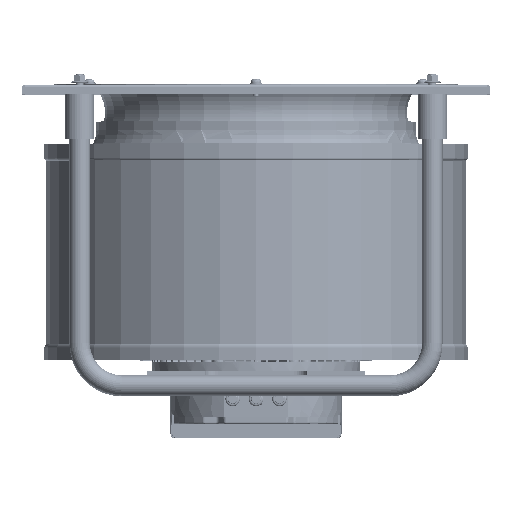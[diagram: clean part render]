
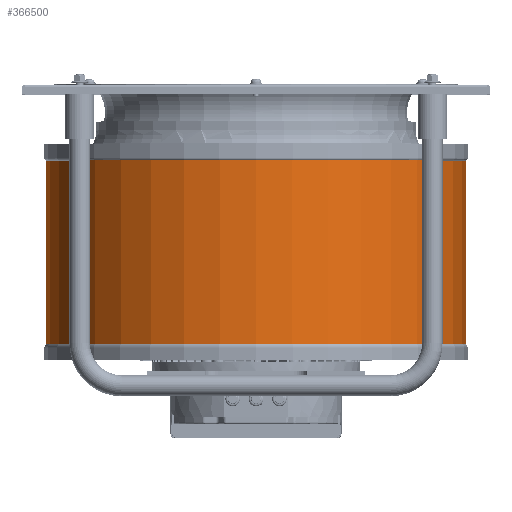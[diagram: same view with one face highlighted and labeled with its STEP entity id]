
A CAD part, top view. The second image highlights one B-rep face of the part: STEP entity #366500.
In plain terms, the highlighted cylindrical face has radius 327.053 mm (diameter 654.107 mm), a partial arc.
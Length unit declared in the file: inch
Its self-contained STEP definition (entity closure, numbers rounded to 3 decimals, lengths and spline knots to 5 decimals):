
#363000=CARTESIAN_POINT('',(0.,0.,10.48125));
#363001=DIRECTION('',(0.,0.,-1.));
#363002=DIRECTION('',(-1.,0.,0.));
#363003=AXIS2_PLACEMENT_3D('',#363000,#363001,#363002);
#363020=DIRECTION('',(0.,0.,-1.));
#363021=VECTOR('',#363020,11.252);
#363022=CARTESIAN_POINT('',(-12.87612,0.,10.48125));
#363023=LINE('',#363022,#363021);
#363024=DIRECTION('',(0.,0.,-1.));
#363025=VECTOR('',#363024,11.252);
#363026=CARTESIAN_POINT('',(12.87612,0.,10.48125));
#363027=LINE('',#363026,#363025);
#363058=CARTESIAN_POINT('',(0.,0.,-0.77075));
#363059=DIRECTION('',(0.,0.,1.));
#363060=DIRECTION('',(1.,0.,0.));
#363061=AXIS2_PLACEMENT_3D('',#363058,#363059,#363060);
#365242=CARTESIAN_POINT('',(-12.87612,0.,-0.77075));
#365243=CARTESIAN_POINT('',(12.87612,0.,-0.77075));
#365244=VERTEX_POINT('',#365242);
#365245=VERTEX_POINT('',#365243);
#365246=CARTESIAN_POINT('',(12.87612,0.,10.48125));
#365247=CARTESIAN_POINT('',(-12.87612,0.,10.48125));
#365248=VERTEX_POINT('',#365246);
#365249=VERTEX_POINT('',#365247);
#366486=CARTESIAN_POINT('',(0.,0.,-1.45342));
#366487=DIRECTION('',(0.,0.,1.));
#366488=DIRECTION('',(-1.,0.,0.));
#366489=AXIS2_PLACEMENT_3D('',#366486,#366487,#366488);
#366490=CYLINDRICAL_SURFACE('',#366489,12.87612);
#366491=ORIENTED_EDGE('',*,*,#366476,.F.);
#366493=ORIENTED_EDGE('',*,*,#366492,.T.);
#366495=ORIENTED_EDGE('',*,*,#366494,.F.);
#366497=ORIENTED_EDGE('',*,*,#366496,.F.);
#366498=EDGE_LOOP('',(#366491,#366493,#366495,#366497));
#366499=FACE_OUTER_BOUND('',#366498,.F.);
#366500=ADVANCED_FACE('',(#366499),#366490,.T.);
#363004=CIRCLE('',#363003,12.87612);
#363062=CIRCLE('',#363061,12.87612);
#366476=EDGE_CURVE('',#365249,#365248,#363004,.T.);
#366492=EDGE_CURVE('',#365249,#365244,#363023,.T.);
#366494=EDGE_CURVE('',#365245,#365244,#363062,.T.);
#366496=EDGE_CURVE('',#365248,#365245,#363027,.T.);
